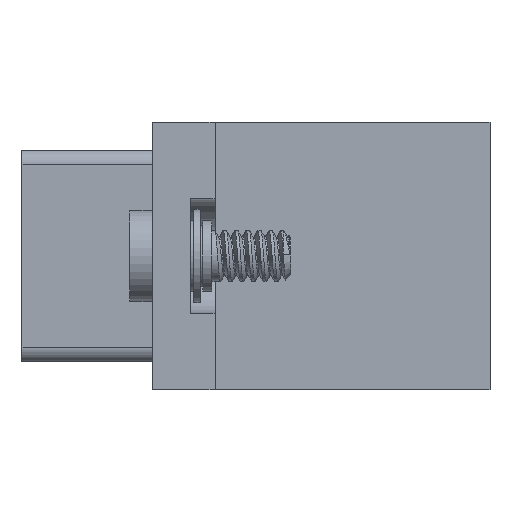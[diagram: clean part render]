
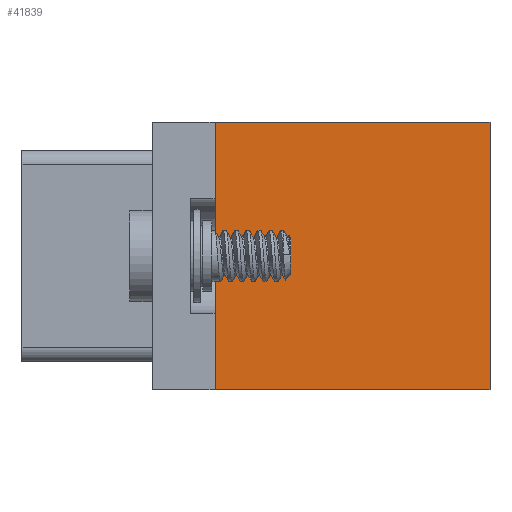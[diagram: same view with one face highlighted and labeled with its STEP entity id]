
A CAD part, front view. The second image highlights one B-rep face of the part: STEP entity #41839.
In plain terms, the highlighted planar face has unit normal (0, -1, 0).
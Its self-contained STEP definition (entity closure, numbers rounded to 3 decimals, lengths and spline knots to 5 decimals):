
#3491=FACE_OUTER_BOUND($,#7749,.T.);
#7749=EDGE_LOOP($,(#32936,#32937,#32938,#32939));
#9236=LINE($,#54720,#12247);
#10245=LINE($,#61377,#13256);
#10271=LINE($,#61445,#13282);
#11104=LINE($,#67901,#14115);
#12247=VECTOR($,#45580,0.601);
#13256=VECTOR($,#47333,0.585);
#13282=VECTOR($,#47413,0.601);
#14115=VECTOR($,#50544,0.585);
#16876=VERTEX_POINT($,#54717);
#16877=VERTEX_POINT($,#54719);
#17993=VERTEX_POINT($,#61376);
#18008=VERTEX_POINT($,#61444);
#20770=EDGE_CURVE($,#16876,#16877,#9236,.T.);
#22392=EDGE_CURVE($,#16877,#17993,#10245,.T.);
#22418=EDGE_CURVE($,#18008,#17993,#10271,.T.);
#24074=EDGE_CURVE($,#16876,#18008,#11104,.T.);
#32936=ORIENTED_EDGE($,*,*,#22418,.T.);
#32937=ORIENTED_EDGE($,*,*,#22392,.F.);
#32938=ORIENTED_EDGE($,*,*,#20770,.F.);
#32939=ORIENTED_EDGE($,*,*,#24074,.T.);
#37510=PLANE($,#44322);
#41839=ADVANCED_FACE($,(#3491),#37510,.F.);
#44322=AXIS2_PLACEMENT_3D($,#67900,#50542,#50543);
#45580=DIRECTION($,(1.,0.,0.));
#47333=DIRECTION($,(0.,0.,-1.));
#47413=DIRECTION($,(1.,0.,0.));
#50542=DIRECTION('center_axis',(0.,1.,0.));
#50543=DIRECTION('ref_axis',(0.,0.,1.));
#50544=DIRECTION($,(0.,0.,-1.));
#54717=CARTESIAN_POINT('',(0.0685,-2.584,0.2925));
#54719=CARTESIAN_POINT('',(0.6695,-2.584,0.2925));
#54720=CARTESIAN_POINT($,(0.5495,-2.584,0.2925));
#61376=CARTESIAN_POINT('',(0.6695,-2.584,-0.2925));
#61377=CARTESIAN_POINT($,(0.6695,-2.584,0.2925));
#61444=CARTESIAN_POINT('',(0.0685,-2.584,-0.2925));
#61445=CARTESIAN_POINT($,(0.5495,-2.584,-0.2925));
#67900=CARTESIAN_POINT('Origin',(0.5495,-2.584,0.2925));
#67901=CARTESIAN_POINT($,(0.0685,-2.584,0.2925));
